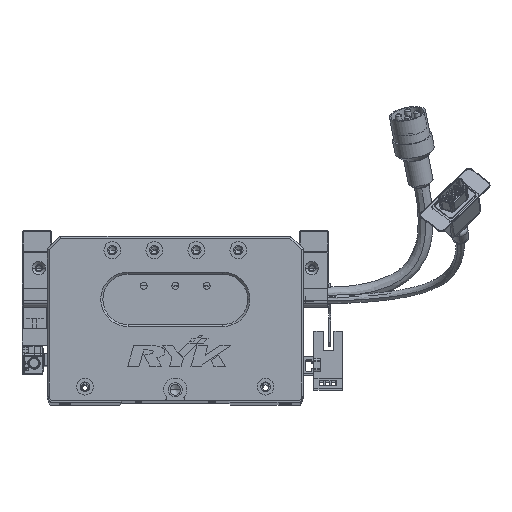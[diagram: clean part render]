
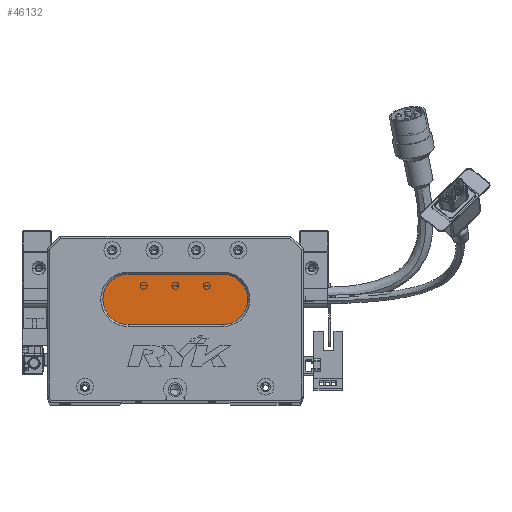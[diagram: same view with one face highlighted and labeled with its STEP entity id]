
A CAD part, top view. The second image highlights one B-rep face of the part: STEP entity #46132.
In plain terms, the highlighted planar face has unit normal (0, 0, 1) as drawn and (0, 0, -1) by its records, which use the part's own axes.
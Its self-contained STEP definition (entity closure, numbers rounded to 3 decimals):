
#378 = EDGE_CURVE ( 'NONE', #18734, #19515, #47018, .T. ) ;
#5439 = DIRECTION ( 'NONE',  ( -1., 0., 0. ) ) ;
#5569 = ORIENTED_EDGE ( 'NONE', *, *, #18962, .T. ) ;
#10634 = AXIS2_PLACEMENT_3D ( 'NONE', #57755, #75346, #33468 ) ;
#13039 = VERTEX_POINT ( 'NONE', #63728 ) ;
#13469 = PLANE ( 'NONE',  #65716 ) ;
#13789 = DIRECTION ( 'NONE',  ( 1., 0., 0. ) ) ;
#14177 = CARTESIAN_POINT ( 'NONE',  ( 38.5, 36., 13. ) ) ;
#14736 = AXIS2_PLACEMENT_3D ( 'NONE', #30735, #72554, #26029 ) ;
#16811 = VECTOR ( 'NONE', #13789, 1000. ) ;
#18734 = VERTEX_POINT ( 'NONE', #14177 ) ;
#18962 = EDGE_CURVE ( 'NONE', #70738, #13039, #27741, .T. ) ;
#18965 = ORIENTED_EDGE ( 'NONE', *, *, #46042, .T. ) ;
#19495 = CARTESIAN_POINT ( 'NONE',  ( 83.5, 48., 13. ) ) ;
#19515 = VERTEX_POINT ( 'NONE', #44316 ) ;
#20802 = EDGE_LOOP ( 'NONE', ( #5569, #33403, #32286, #62194, #18965 ) ) ;
#23399 = VECTOR ( 'NONE', #37955, 1000. ) ;
#26029 = DIRECTION ( 'NONE',  ( -1., 0., 0. ) ) ;
#27741 = CIRCLE ( 'NONE', #52051, 12. ) ;
#30735 = CARTESIAN_POINT ( 'NONE',  ( 38.5, 48., 13. ) ) ;
#32286 = ORIENTED_EDGE ( 'NONE', *, *, #378, .T. ) ;
#33403 = ORIENTED_EDGE ( 'NONE', *, *, #59373, .T. ) ;
#33468 = DIRECTION ( 'NONE',  ( -1., 0., 0. ) ) ;
#34182 = VERTEX_POINT ( 'NONE', #35846 ) ;
#35846 = CARTESIAN_POINT ( 'NONE',  ( 38.5, 60., 13. ) ) ;
#36200 = DIRECTION ( 'NONE',  ( -1., 0., 0. ) ) ;
#37374 = LINE ( 'NONE', #68054, #23399 ) ;
#37955 = DIRECTION ( 'NONE',  ( -1., 0., 0. ) ) ;
#42198 = LINE ( 'NONE', #55340, #16811 ) ;
#43268 = EDGE_CURVE ( 'NONE', #19515, #34182, #57438, .T. ) ;
#44316 = CARTESIAN_POINT ( 'NONE',  ( 26.5, 48., 13. ) ) ;
#46042 = EDGE_CURVE ( 'NONE', #34182, #70738, #42198, .T. ) ;
#46132 = ADVANCED_FACE ( 'NONE', ( #52388 ), #13469, .T. ) ;
#47018 = CIRCLE ( 'NONE', #14736, 12. ) ;
#52051 = AXIS2_PLACEMENT_3D ( 'NONE', #76140, #77161, #5439 ) ;
#52388 = FACE_OUTER_BOUND ( 'NONE', #20802, .T. ) ;
#55340 = CARTESIAN_POINT ( 'NONE',  ( 83.5, 60., 13. ) ) ;
#57438 = CIRCLE ( 'NONE', #10634, 12. ) ;
#57755 = CARTESIAN_POINT ( 'NONE',  ( 38.5, 48., 13. ) ) ;
#59373 = EDGE_CURVE ( 'NONE', #13039, #18734, #37374, .T. ) ;
#62194 = ORIENTED_EDGE ( 'NONE', *, *, #43268, .T. ) ;
#62263 = CARTESIAN_POINT ( 'NONE',  ( 83.5, 60., 13. ) ) ;
#63728 = CARTESIAN_POINT ( 'NONE',  ( 83.5, 36., 13. ) ) ;
#65716 = AXIS2_PLACEMENT_3D ( 'NONE', #19495, #72038, #36200 ) ;
#68054 = CARTESIAN_POINT ( 'NONE',  ( 83.5, 36., 13. ) ) ;
#70738 = VERTEX_POINT ( 'NONE', #62263 ) ;
#72038 = DIRECTION ( 'NONE',  ( 0., 0., -1. ) ) ;
#72554 = DIRECTION ( 'NONE',  ( 0., 0., -1. ) ) ;
#75346 = DIRECTION ( 'NONE',  ( 0., 0., -1. ) ) ;
#76140 = CARTESIAN_POINT ( 'NONE',  ( 83.5, 48., 13. ) ) ;
#77161 = DIRECTION ( 'NONE',  ( 0., 0., -1. ) ) ;
